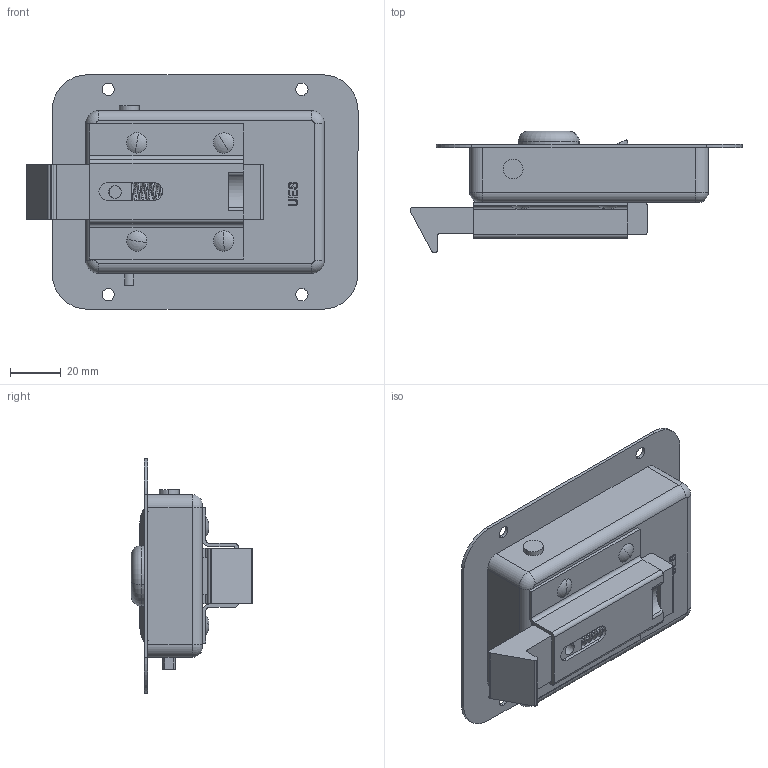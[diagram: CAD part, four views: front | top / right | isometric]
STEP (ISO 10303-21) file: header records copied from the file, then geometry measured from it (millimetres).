
FILE_DESCRIPTION (( 'STEP AP203' ), '1' );
FILE_NAME ('FU902P.STEP', '2017-09-08T03:44:26', ( 'rquinn' ), ( '' ), 'SwSTEP 2.0', 'SolidWorks 2017', '' );
FILE_SCHEMA (( 'CONFIG_CONTROL_DESIGN' ));
Length unit declared in the file: millimetre
Products named in the file (9): FU902P; FU902P-5; FU902P-6; FU902P-7; FU902P-8; FU902P-pin; FU902P-lock; FU902P-little pin; FU902P-spring
Assembly tree (11 placements, depth 2):
  FU902P
    FU902P-5
    FU902P-6
    FU902P-7
    FU902P-8
    FU902P-pin
    FU902P-lock
    FU902P-little pin  x4
    FU902P-spring
Bounding box: 130.26 x 47.65 x 92 mm (x, y, z)
Volume: 66515.2 mm3; surface area: 68863.5 mm2
Topology: 11 solids, 11 shells, 405 faces, 1043 edges, 650 vertices
Faces by surface type: cylinder 158, plane 154, bspline 44, torus 32, sphere 17
Entity records: 17536 total; most frequent: CARTESIAN_POINT 7091, ORIENTED_EDGE 1978, DIRECTION 1959, EDGE_CURVE 989, AXIS2_PLACEMENT_3D 719, VERTEX_POINT 627, VECTOR 521, LINE 521
